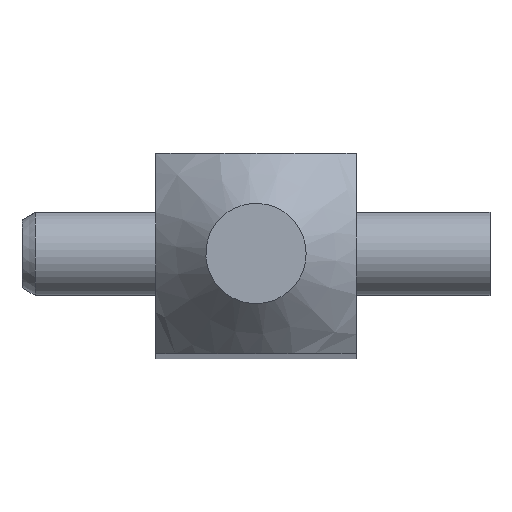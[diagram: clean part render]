
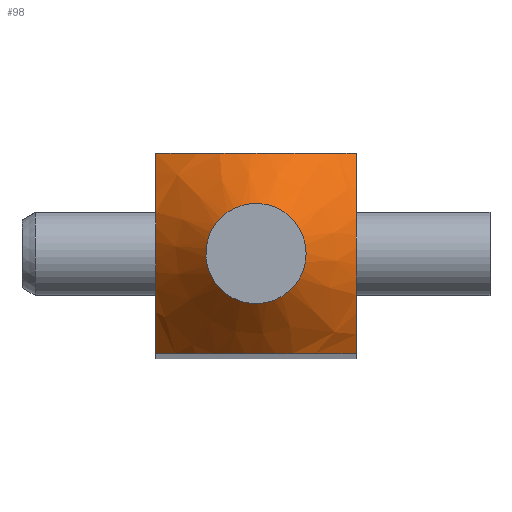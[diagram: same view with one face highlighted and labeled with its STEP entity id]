
A CAD part, top view. The second image highlights one B-rep face of the part: STEP entity #98.
In plain terms, the highlighted conical face has half-angle 45 degrees and reference radius 0.9 mm.
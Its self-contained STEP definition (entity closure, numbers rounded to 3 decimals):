
#53=CONICAL_SURFACE('',#289,0.9,45.);
#57=FACE_BOUND('',#132,.T.);
#58=FACE_BOUND('',#133,.T.);
#60=B_SPLINE_CURVE_WITH_KNOTS('',3,(#385,#386,#387,#388,#389,#390),
 .UNSPECIFIED.,.F.,.F.,(4,2,4),(0.,0.5,1.),.UNSPECIFIED.);
#62=B_SPLINE_CURVE_WITH_KNOTS('',3,(#404,#405,#406,#407,#408,#409),
 .UNSPECIFIED.,.F.,.F.,(4,2,4),(0.,0.5,1.),.UNSPECIFIED.);
#64=B_SPLINE_CURVE_WITH_KNOTS('',3,(#417,#418,#419,#420,#421,#422),
 .UNSPECIFIED.,.F.,.F.,(4,2,4),(0.,0.5,1.),.UNSPECIFIED.);
#66=B_SPLINE_CURVE_WITH_KNOTS('',3,(#431,#432,#433,#434,#435,#436),
 .UNSPECIFIED.,.F.,.F.,(4,2,4),(0.,0.5,1.),.UNSPECIFIED.);
#98=ADVANCED_FACE('',(#57,#58),#53,.T.);
#132=EDGE_LOOP('',(#162));
#133=EDGE_LOOP('',(#163,#164,#165,#166));
#162=ORIENTED_EDGE('',*,*,#209,.T.);
#163=ORIENTED_EDGE('',*,*,#219,.F.);
#164=ORIENTED_EDGE('',*,*,#217,.F.);
#165=ORIENTED_EDGE('',*,*,#221,.F.);
#166=ORIENTED_EDGE('',*,*,#213,.F.);
#189=VERTEX_POINT('',#371);
#190=VERTEX_POINT('',#374);
#193=VERTEX_POINT('',#384);
#194=VERTEX_POINT('',#393);
#197=VERTEX_POINT('',#403);
#209=EDGE_CURVE('',#189,#189,#237,.T.);
#213=EDGE_CURVE('',#193,#190,#60,.T.);
#217=EDGE_CURVE('',#197,#194,#62,.T.);
#219=EDGE_CURVE('',#194,#193,#64,.T.);
#221=EDGE_CURVE('',#190,#197,#66,.T.);
#237=CIRCLE('',#282,1.5);
#282=AXIS2_PLACEMENT_3D('',#370,#312,#313);
#289=AXIS2_PLACEMENT_3D('',#438,#330,#331);
#312=DIRECTION('',(0.,0.,-1.));
#313=DIRECTION('',(1.,0.,0.));
#330=DIRECTION('',(0.,0.,-1.));
#331=DIRECTION('',(-1.,0.,0.));
#370=CARTESIAN_POINT('',(0.,0.,85.));
#371=CARTESIAN_POINT('',(1.5,0.,85.));
#374=CARTESIAN_POINT('',(-3.,-3.,82.257));
#384=CARTESIAN_POINT('',(3.,-3.,82.257));
#385=CARTESIAN_POINT('',(3.,-3.,82.257));
#386=CARTESIAN_POINT('',(2.105,-3.,82.89));
#387=CARTESIAN_POINT('',(1.116,-3.,83.493));
#388=CARTESIAN_POINT('',(-1.077,-3.,83.507));
#389=CARTESIAN_POINT('',(-2.095,-3.,82.897));
#390=CARTESIAN_POINT('',(-3.,-3.,82.257));
#393=CARTESIAN_POINT('',(3.,3.,82.257));
#403=CARTESIAN_POINT('',(-3.,3.,82.257));
#404=CARTESIAN_POINT('',(-3.,3.,82.257));
#405=CARTESIAN_POINT('',(-2.105,3.,82.89));
#406=CARTESIAN_POINT('',(-1.116,3.,83.493));
#407=CARTESIAN_POINT('',(1.077,3.,83.507));
#408=CARTESIAN_POINT('',(2.095,3.,82.897));
#409=CARTESIAN_POINT('',(3.,3.,82.257));
#417=CARTESIAN_POINT('',(3.,3.,82.257));
#418=CARTESIAN_POINT('',(3.,2.105,82.89));
#419=CARTESIAN_POINT('',(3.,1.116,83.493));
#420=CARTESIAN_POINT('',(3.,-1.077,83.507));
#421=CARTESIAN_POINT('',(3.,-2.095,82.897));
#422=CARTESIAN_POINT('',(3.,-3.,82.257));
#431=CARTESIAN_POINT('',(-3.,-3.,82.257));
#432=CARTESIAN_POINT('',(-3.,-2.105,82.89));
#433=CARTESIAN_POINT('',(-3.,-1.116,83.493));
#434=CARTESIAN_POINT('',(-3.,1.077,83.507));
#435=CARTESIAN_POINT('',(-3.,2.095,82.897));
#436=CARTESIAN_POINT('',(-3.,3.,82.257));
#438=CARTESIAN_POINT('',(0.,0.,85.6));
